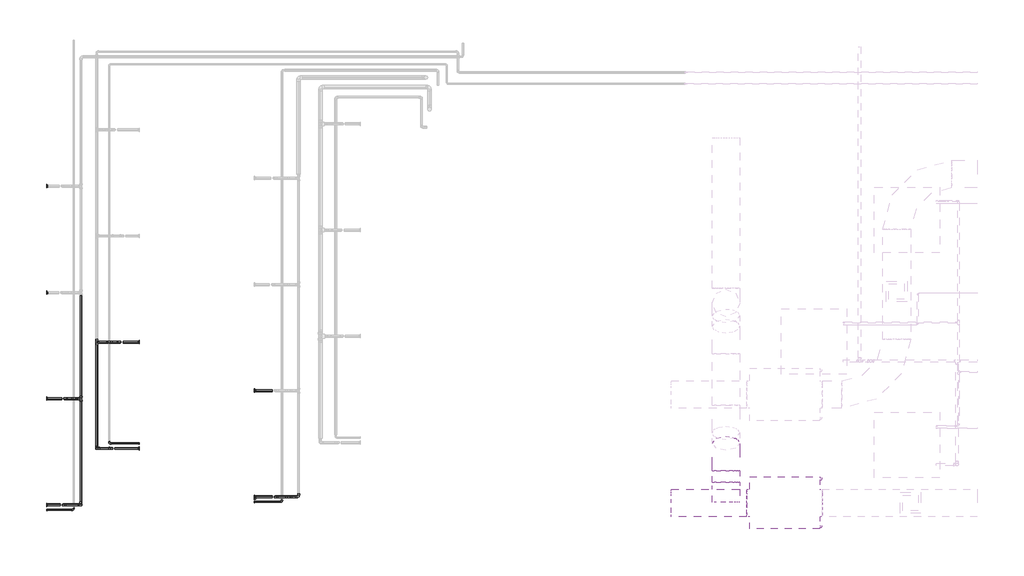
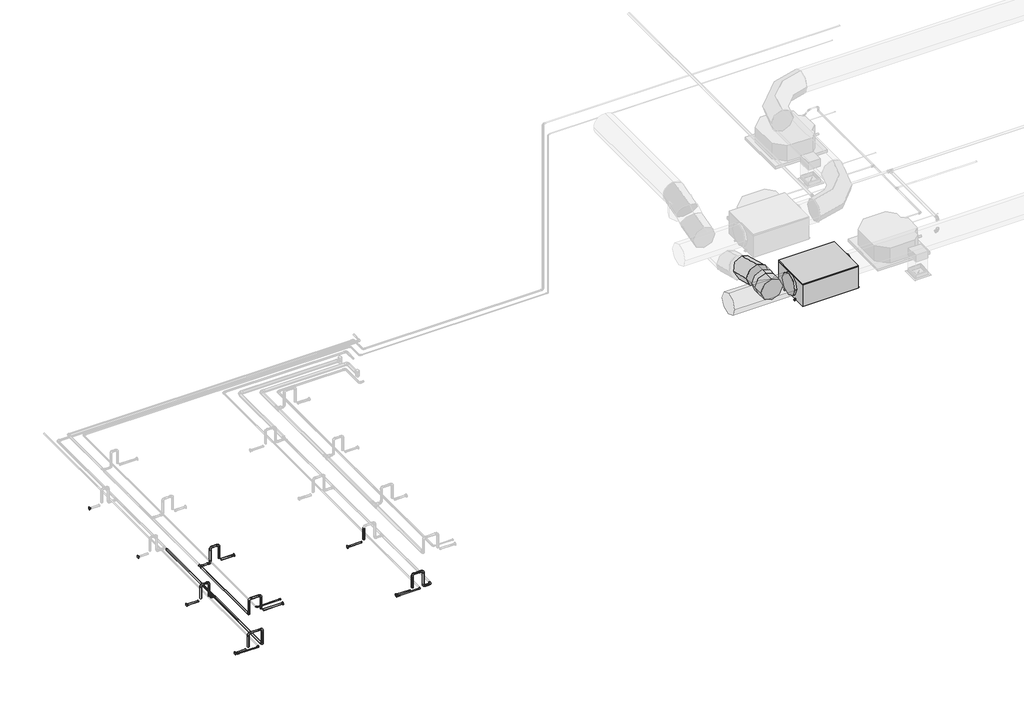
# One storey, part 1 of 22: 33 pipe fittings, 31 pipe segments, 2 duct fittings, 2 duct segments, 1 proxy.
"""IFC4 building model written with IfcOpenShell, lengths in millimetres."""

from ifc_helpers import new_model, si_unit, point, frame, frame_2d, origin, place, context, project, spatial, circle_curve, trimmed, segment, composite_curve, outline, extrude, transform, mapped, element, save
from components import fh_fh_400_6e0c7af0, duct_fitting_f399081e, duct_fitting_2_d_6dcb9c69, pipe_fitting_fefc82c8, pipe_fitting_16c020f5, pipe_fitting_3263ca60, pipe_fitting_ae0032d9, pipe_fitting_bf9d9dba

model = new_model("IFC4")

# Units and contexts
model_context = context("Model", 3, world=origin())
ifc_project = project(units=[si_unit("LENGTHUNIT", "METRE", prefix="MILLI")], contexts=[model_context])

# Site, building, storey
site = spatial("IfcSite", under=ifc_project)
building = spatial("IfcBuilding", under=site)
storey = spatial("IfcBuildingStorey", under=building, Name="Nível 2", Elevation=3880.0)

# Proxy
placement = place(None, origin())
fh_fh_400_shape = fh_fh_400_6e0c7af0(model_context)
element("IfcBuildingElementProxy", 1, Name="FH : FH 400", ObjectType="FH : FH 400", at=placement, inside=storey, context=model_context, shape_type="MappedRepresentation", body=[
    mapped(fh_fh_400_shape, transform((-1343.4687297, -8763.8997628, 7280.0), x_axis=(0.0, 1.0, 0.0), y_axis=(-1.0, 0.0, 0.0), z_axis=(0.0, 0.0, 1.0))),
])

# Duct fittings
duct_fitting_shape = duct_fitting_f399081e(model_context)
element("IfcDuctFitting", 2, ObjectType="M_Encaixe de duto redondo : Padrão", at=placement, inside=storey, context=model_context, shape_type="MappedRepresentation", body=[
    mapped(duct_fitting_shape, transform((-2195.6317244, -8563.8997628, 7501.0), x_axis=(0.0, 1.0, 0.0), y_axis=(1.0, 0.0, 0.0), z_axis=(0.0, 0.0, -1.0))),
])
duct_fitting_2_d_shape = duct_fitting_2_d_6dcb9c69(model_context)
element("IfcDuctFitting", 3, ObjectType="M_Cotovelo redondo : 2 D", at=placement, inside=storey, context=model_context, shape_type="MappedRepresentation", body=[
    mapped(duct_fitting_2_d_shape, transform((-2195.6317244, -8085.2090081, 7501.0), x_axis=(0.0, 1.0, 0.0), y_axis=(0.0, 0.0, -1.0), z_axis=(-1.0, 0.0, 0.0))),
])

# Duct segments
element("IfcDuctSegment", 4, ObjectType="Torneiras / Raio curto", at=placement, inside=storey, context=model_context, shape_type="SweptSolid", body=[
    extrude(outline(composite_curve([segment(trimmed(circle_curve(frame_2d((-8763.8997628, 7501.0)), 200.0), [point((-8563.8997628, 7501.0))], [point((-8763.8997628, 7301.0))], False, "CARTESIAN"), True, "CONTINUOUS"), segment(trimmed(circle_curve(frame_2d((-8763.8997628, 7501.0)), 200.0), [point((-8763.8997628, 7301.0))], [point((-8963.8997628, 7501.0))], False, "CARTESIAN"), True, "CONTINUOUS"), segment(trimmed(circle_curve(frame_2d((-8763.8997628, 7501.0)), 200.0), [point((-8963.8997628, 7501.0))], [point((-8763.8997628, 7701.0))], False, "CARTESIAN"), True, "CONTINUOUS"), segment(trimmed(circle_curve(frame_2d((-8763.8997628, 7501.0)), 200.0), [point((-8763.8997628, 7701.0))], [point((-8563.8997628, 7501.0))], False, "CARTESIAN"), True, "CONTINUOUS")], self_intersect=False)), frame((-2990.4687297, 0.0, 0.0), z_axis=(1.0, 0.0, 0.0), x_axis=(0.0, 1.0, 0.0)), (0.0, 0.0, 1.0), 1100.0),
])
element("IfcDuctSegment", 5, ObjectType="Torneiras / Raio curto", at=placement, inside=storey, context=model_context, shape_type="SweptSolid", body=[
    extrude(outline(composite_curve([segment(trimmed(circle_curve(frame_2d((7501.0, -2195.6317244)), 200.0), [point((7501.0, -1995.6317244))], [point((7701.0, -2195.6317244))], False, "CARTESIAN"), True, "CONTINUOUS"), segment(trimmed(circle_curve(frame_2d((7501.0, -2195.6317244)), 200.0), [point((7701.0, -2195.6317244))], [point((7501.0, -2395.6317244))], False, "CARTESIAN"), True, "CONTINUOUS"), segment(trimmed(circle_curve(frame_2d((7501.0, -2195.6317244)), 200.0), [point((7501.0, -2395.6317244))], [point((7301.0, -2195.6317244))], False, "CARTESIAN"), True, "CONTINUOUS"), segment(trimmed(circle_curve(frame_2d((7501.0, -2195.6317244)), 200.0), [point((7301.0, -2195.6317244))], [point((7501.0, -1995.6317244))], False, "CARTESIAN"), True, "CONTINUOUS")], self_intersect=False)), frame((0.0, -8462.2997628, 0.0), z_axis=(0.0, 1.0, 0.0), x_axis=(0.0, 0.0, 1.0)), (0.0, 0.0, 1.0), 162.7314067),
])

# Pipe fittings
pipe_fitting_shape = pipe_fitting_fefc82c8(model_context)
element("IfcPipeFitting", 6, ObjectType="Cotovelo - Soldado - CU : Padrão", at=placement, inside=storey, context=model_context, shape_type="MappedRepresentation", body=[
    mapped(pipe_fitting_shape, transform((-8735.5926914, -8677.4473557, 4218.9), x_axis=(0.0, 0.0, 1.0), y_axis=(1.0, 0.0, 0.0), z_axis=(0.0, 1.0, 0.0))),
])
element("IfcPipeFitting", 7, ObjectType="Cotovelo - Soldado - CU : Padrão", at=placement, inside=storey, context=model_context, shape_type="MappedRepresentation", body=[
    mapped(pipe_fitting_shape, transform((-8535.5926914, -8677.4473557, 4218.9), x_axis=(1.0, 0.0, 0.0), y_axis=(0.0, 0.0, -1.0), z_axis=(0.0, 1.0, 0.0))),
])
element("IfcPipeFitting", 8, ObjectType="Cotovelo - Soldado - CU : Padrão", at=placement, inside=storey, context=model_context, shape_type="MappedRepresentation", body=[
    mapped(pipe_fitting_shape, transform((-8535.5926914, -8677.4473557, 3918.9), x_axis=(0.0, 0.0, -1.0), y_axis=(1.0, 0.0, 0.0), z_axis=(0.0, -1.0, 0.0))),
])
element("IfcPipeFitting", 9, ObjectType="Cotovelo - Soldado - CU : Padrão", at=placement, inside=storey, context=model_context, shape_type="MappedRepresentation", body=[
    mapped(pipe_fitting_shape, transform((-8395.5926914, -8677.4473557, 3918.9), x_axis=(1.0, 0.0, 0.0), y_axis=(0.0, 1.0, 0.0), z_axis=(0.0, 0.0, 1.0))),
])
element("IfcPipeFitting", 10, ObjectType="Cotovelo - Soldado - CU : Padrão", at=placement, inside=storey, context=model_context, shape_type="MappedRepresentation", body=[
    mapped(pipe_fitting_shape, transform((-11103.5282247, -7975.3118218, 4218.9), x_axis=(0.0, 0.0, 1.0), y_axis=(-1.0, 0.0, 0.0), z_axis=(0.0, -1.0, 0.0))),
])
element("IfcPipeFitting", 11, ObjectType="Cotovelo - Soldado - CU : Padrão", at=placement, inside=storey, context=model_context, shape_type="MappedRepresentation", body=[
    mapped(pipe_fitting_shape, transform((-11323.5282247, -7975.3118218, 4218.9), x_axis=(-1.0, 0.0, 0.0), y_axis=(0.0, 0.0, -1.0), z_axis=(0.0, -1.0, 0.0))),
])
element("IfcPipeFitting", 12, ObjectType="Cotovelo - Soldado - CU : Padrão", at=placement, inside=storey, context=model_context, shape_type="MappedRepresentation", body=[
    mapped(pipe_fitting_shape, transform((-11323.5282247, -7975.3118218, 3918.9), x_axis=(0.0, 0.0, -1.0), y_axis=(0.0, 1.0, 0.0), z_axis=(1.0, 0.0, 0.0))),
])
element("IfcPipeFitting", 13, ObjectType="Cotovelo - Soldado - CU : Padrão", at=placement, inside=storey, context=model_context, shape_type="MappedRepresentation", body=[
    mapped(pipe_fitting_shape, transform((-10983.5282246, -6431.3118218, 4218.9), x_axis=(0.0, 0.0, 1.0), y_axis=(-1.0, 0.0, 0.0), z_axis=(0.0, -1.0, 0.0))),
])
element("IfcPipeFitting", 14, ObjectType="Cotovelo - Soldado - CU : Padrão", at=placement, inside=storey, context=model_context, shape_type="MappedRepresentation", body=[
    mapped(pipe_fitting_shape, transform((-11143.5282245, -6431.3118218, 4218.9), x_axis=(-1.0, 0.0, 0.0), y_axis=(0.0, 0.0, -1.0), z_axis=(0.0, -1.0, 0.0))),
])
element("IfcPipeFitting", 15, ObjectType="Cotovelo - Soldado - CU : Padrão", at=placement, inside=storey, context=model_context, shape_type="MappedRepresentation", body=[
    mapped(pipe_fitting_shape, transform((-11143.5282245, -6431.3118218, 3918.9), x_axis=(0.0, 0.0, -1.0), y_axis=(-1.0, 0.0, 0.0), z_axis=(0.0, 1.0, 0.0))),
])
element("IfcPipeFitting", 16, ObjectType="Cotovelo - Soldado - CU : Padrão", at=placement, inside=storey, context=model_context, shape_type="MappedRepresentation", body=[
    mapped(pipe_fitting_shape, transform((-11811.2126646, -8793.9118218, 4218.9), x_axis=(0.0, 0.0, 1.0), y_axis=(1.0, 0.0, 0.0), z_axis=(0.0, 1.0, 0.0))),
])
element("IfcPipeFitting", 17, ObjectType="Cotovelo - Soldado - CU : Padrão", at=placement, inside=storey, context=model_context, shape_type="MappedRepresentation", body=[
    mapped(pipe_fitting_shape, transform((-11551.2126646, -8793.9118218, 4218.9), x_axis=(1.0, 0.0, 0.0), y_axis=(0.0, 0.0, -1.0), z_axis=(0.0, 1.0, 0.0))),
])
element("IfcPipeFitting", 18, ObjectType="Cotovelo - Soldado - CU : Padrão", at=placement, inside=storey, context=model_context, shape_type="MappedRepresentation", body=[
    mapped(pipe_fitting_shape, transform((-11551.2126646, -8793.9118218, 3918.9), x_axis=(0.0, 0.0, -1.0), y_axis=(0.0, 1.0, 0.0), z_axis=(1.0, 0.0, 0.0))),
])
element("IfcPipeFitting", 19, ObjectType="Cotovelo - Soldado - CU : Padrão", at=placement, inside=storey, context=model_context, shape_type="MappedRepresentation", body=[
    mapped(pipe_fitting_shape, transform((-11791.2126648, -7252.9118218, 4218.9), x_axis=(0.0, 0.0, 1.0), y_axis=(1.0, 0.0, 0.0), z_axis=(0.0, 1.0, 0.0))),
])
element("IfcPipeFitting", 20, ObjectType="Cotovelo - Soldado - CU : Padrão", at=placement, inside=storey, context=model_context, shape_type="MappedRepresentation", body=[
    mapped(pipe_fitting_shape, transform((-11641.2126648, -7252.9118218, 4218.9), x_axis=(1.0, 0.0, 0.0), y_axis=(0.0, 0.0, -1.0), z_axis=(0.0, 1.0, 0.0))),
])
element("IfcPipeFitting", 21, ObjectType="Cotovelo - Soldado - CU : Padrão", at=placement, inside=storey, context=model_context, shape_type="MappedRepresentation", body=[
    mapped(pipe_fitting_shape, transform((-11641.2126648, -7252.9118218, 3918.9), x_axis=(0.0, 0.0, -1.0), y_axis=(1.0, 0.0, 0.0), z_axis=(0.0, -1.0, 0.0))),
])
pipe_fitting_2_shape = pipe_fitting_16c020f5(model_context)
element("IfcPipeFitting", 22, ObjectType="Cotovelo - Soldado - CU : Padrão", at=placement, inside=storey, context=model_context, shape_type="MappedRepresentation", body=[
    mapped(pipe_fitting_2_shape, transform((-8634.9926925, -8750.4473557, 3954.6), x_axis=(0.9999999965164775, 0.0, -8.34688267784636e-05), y_axis=(0.0, 1.0, 0.0), z_axis=(8.34688267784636e-05, 0.0, 0.9999999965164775))),
])
element("IfcPipeFitting", 23, ObjectType="Cotovelo - Soldado - CU : Padrão", at=placement, inside=storey, context=model_context, shape_type="MappedRepresentation", body=[
    mapped(pipe_fitting_2_shape, transform((-11143.5282239, -7902.3118218, 3954.6), x_axis=(0.0, -1.0, 0.0), y_axis=(0.9999999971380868, 0.0, 7.565597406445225e-05), z_axis=(-7.565597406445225e-05, 0.0, 0.9999999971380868))),
])
element("IfcPipeFitting", 24, ObjectType="Cotovelo - Soldado - CU : Padrão", at=placement, inside=storey, context=model_context, shape_type="MappedRepresentation", body=[
    mapped(pipe_fitting_2_shape, transform((-11658.5537659, -8866.9118218, 3954.594799), x_axis=(0.9999999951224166, 0.0, -9.876824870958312e-05), y_axis=(7.510180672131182e-11, 0.9999999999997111, 7.603841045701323e-07), z_axis=(9.876824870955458e-05, -7.603841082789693e-07, 0.9999999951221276))),
])
pipe_fitting_3_shape = pipe_fitting_3263ca60(model_context)
element("IfcPipeFitting", 25, ObjectType="Bucha de redução reta - Soldada - CU : Padrão", at=placement, inside=storey, context=model_context, shape_type="MappedRepresentation", body=[
    mapped(pipe_fitting_3_shape, transform((-9038.5282251, -8693.9118218, 3918.8823309), x_axis=(1.0, 0.0, 0.0), y_axis=(0.0, 1.0, 0.0), z_axis=(0.0, 0.0, 1.0))),
])
element("IfcPipeFitting", 26, ObjectType="Bucha de redução reta - Soldada - CU : Padrão", at=placement, inside=storey, context=model_context, shape_type="MappedRepresentation", body=[
    mapped(pipe_fitting_3_shape, transform((-9034.9926912, -8677.4473557, 3918.8823309), x_axis=(1.0, 0.0, 0.0), y_axis=(0.0, 1.0, 0.0), z_axis=(0.0, 0.0, 1.0))),
])
element("IfcPipeFitting", 27, ObjectType="Bucha de redução reta - Soldada - CU : Padrão", at=placement, inside=storey, context=model_context, shape_type="MappedRepresentation", body=[
    mapped(pipe_fitting_3_shape, transform((-9034.9926912, -7136.4473557, 3918.8823309), x_axis=(1.0, 0.0, 0.0), y_axis=(0.0, 1.0, 0.0), z_axis=(0.0, 0.0, 1.0))),
])
element("IfcPipeFitting", 28, ObjectType="Bucha de redução reta - Soldada - CU : Padrão", at=placement, inside=storey, context=model_context, shape_type="MappedRepresentation", body=[
    mapped(pipe_fitting_3_shape, transform((-10703.5282251, -7975.3118218, 3918.8823309), x_axis=(-1.0, 0.0, 0.0), y_axis=(0.0, -1.0, 0.0), z_axis=(0.0, 0.0, 1.0))),
])
element("IfcPipeFitting", 29, ObjectType="Bucha de redução reta - Soldada - CU : Padrão", at=placement, inside=storey, context=model_context, shape_type="MappedRepresentation", body=[
    mapped(pipe_fitting_3_shape, transform((-10703.5282251, -6431.3118218, 3918.8823309), x_axis=(-1.0, 0.0, 0.0), y_axis=(0.0, -1.0, 0.0), z_axis=(0.0, 0.0, 1.0))),
])
element("IfcPipeFitting", 30, ObjectType="Bucha de redução reta - Soldada - CU : Padrão", at=placement, inside=storey, context=model_context, shape_type="MappedRepresentation", body=[
    mapped(pipe_fitting_3_shape, transform((-12051.2126641, -8793.9118218, 3918.8823309), x_axis=(1.0, 0.0, 0.0), y_axis=(0.0, 1.0, 0.0), z_axis=(0.0, 0.0, 1.0))),
])
element("IfcPipeFitting", 31, ObjectType="Bucha de redução reta - Soldada - CU : Padrão", at=placement, inside=storey, context=model_context, shape_type="MappedRepresentation", body=[
    mapped(pipe_fitting_3_shape, transform((-12051.2126641, -7252.9118218, 3918.8823309), x_axis=(1.0, 0.0, 0.0), y_axis=(0.0, 1.0, 0.0), z_axis=(0.0, 0.0, 1.0))),
])
element("IfcPipeFitting", 32, ObjectType="Bucha de redução reta - Soldada - CU : Padrão", at=placement, inside=storey, context=model_context, shape_type="MappedRepresentation", body=[
    mapped(pipe_fitting_3_shape, transform((-12051.2126641, -5713.9118218, 3918.8823309), x_axis=(1.0, 0.0, 0.0), y_axis=(0.0, 1.0, 0.0), z_axis=(0.0, 0.0, 1.0))),
])
element("IfcPipeFitting", 33, ObjectType="Bucha de redução reta - Soldada - CU : Padrão", at=placement, inside=storey, context=model_context, shape_type="MappedRepresentation", body=[
    mapped(pipe_fitting_3_shape, transform((-12051.2126641, -4169.9118218, 3918.8823309), x_axis=(1.0, 0.0, 0.0), y_axis=(0.0, 1.0, 0.0), z_axis=(0.0, 0.0, 1.0))),
])
pipe_fitting_4_shape = pipe_fitting_ae0032d9(model_context)
element("IfcPipeFitting", 34, ObjectType="Tê - Soldado - CU : Padrão", at=placement, inside=storey, context=model_context, shape_type="MappedRepresentation", body=[
    mapped(pipe_fitting_4_shape, transform((-11323.5282247, -6431.3118218, 3918.9), x_axis=(0.0, -1.0, 0.0), y_axis=(-1.0, 0.0, 0.0), z_axis=(0.0, 0.0, -1.0))),
])
element("IfcPipeFitting", 35, ObjectType="Tê - Soldado - CU : Padrão", at=placement, inside=storey, context=model_context, shape_type="MappedRepresentation", body=[
    mapped(pipe_fitting_4_shape, transform((-11551.2126646, -7252.9118218, 3918.9), x_axis=(0.0, -1.0, 0.0), y_axis=(1.0, 0.0, 0.0), z_axis=(0.0, 0.0, 1.0))),
])
pipe_fitting_5_shape = pipe_fitting_bf9d9dba(model_context)
element("IfcPipeFitting", 36, ObjectType="Bucha de redução reta - Soldada - CU : Padrão", at=placement, inside=storey, context=model_context, shape_type="MappedRepresentation", body=[
    mapped(pipe_fitting_5_shape, transform((-9034.9926912, -8750.4473557, 3954.6323309), x_axis=(1.0, 0.0, 0.0), y_axis=(0.0, 1.0, 0.0), z_axis=(0.0, 0.0, 1.0))),
])
element("IfcPipeFitting", 37, ObjectType="Bucha de redução reta - Soldada - CU : Padrão", at=placement, inside=storey, context=model_context, shape_type="MappedRepresentation", body=[
    mapped(pipe_fitting_5_shape, transform((-10703.5282251, -7902.3118218, 3954.6323309), x_axis=(-1.0, 0.0, 0.0), y_axis=(0.0, -1.0, 0.0), z_axis=(0.0, 0.0, 1.0))),
])
element("IfcPipeFitting", 38, ObjectType="Bucha de redução reta - Soldada - CU : Padrão", at=placement, inside=storey, context=model_context, shape_type="MappedRepresentation", body=[
    mapped(pipe_fitting_5_shape, transform((-12051.2126641, -8866.9118218, 3954.6323309), x_axis=(1.0, 0.0, 0.0), y_axis=(0.0, 1.0, 0.0), z_axis=(0.0, 0.0, 1.0))),
])

# Pipe segments
element("IfcPipeSegment", 39, ObjectType="Tubos de cobre HVAC", at=placement, inside=storey, context=model_context, shape_type="SweptSolid", body=[
    extrude(outline(composite_curve([segment(trimmed(circle_curve(frame_2d((0.0, 14.0)), 14.0), [point((-14.0, 14.0))], [point((0.0, 28.0))], False, "CARTESIAN"), True, "CONTINUOUS"), segment(trimmed(circle_curve(frame_2d((0.0, 14.0)), 14.0), [point((0.0, 28.0))], [point((14.0, 14.0))], False, "CARTESIAN"), True, "CONTINUOUS"), segment(trimmed(circle_curve(frame_2d((0.0, 14.0)), 14.0), [point((14.0, 14.0))], [point((0.0, 0.0))], False, "CARTESIAN"), True, "CONTINUOUS"), segment(trimmed(circle_curve(frame_2d((0.0, 14.0)), 14.0), [point((0.0, 0.0))], [point((-14.0, 14.0))], False, "CARTESIAN"), True, "CONTINUOUS")], self_intersect=False)), frame((-9015.5921765, -8677.4473557, 3904.8823309), z_axis=(0.9999999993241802, 0.0, 3.6764654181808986e-05), x_axis=(0.0, 1.0, 0.0)), (0.0, 0.0, 1.0), 237.8),
])
element("IfcPipeSegment", 40, ObjectType="Tubos de cobre HVAC", at=placement, inside=storey, context=model_context, shape_type="SweptSolid", body=[
    extrude(outline(composite_curve([segment(trimmed(circle_curve(frame_2d((-8735.5926914, -8677.4473557)), 14.0), [point((-8749.5926914, -8677.4473557))], [point((-8735.5926914, -8663.4473557))], False, "CARTESIAN"), True, "CONTINUOUS"), segment(trimmed(circle_curve(frame_2d((-8735.5926914, -8677.4473557)), 14.0), [point((-8735.5926914, -8663.4473557))], [point((-8721.5926914, -8677.4473557))], False, "CARTESIAN"), True, "CONTINUOUS"), segment(trimmed(circle_curve(frame_2d((-8735.5926914, -8677.4473557)), 14.0), [point((-8721.5926914, -8677.4473557))], [point((-8735.5926914, -8691.4473557))], False, "CARTESIAN"), True, "CONTINUOUS"), segment(trimmed(circle_curve(frame_2d((-8735.5926914, -8677.4473557)), 14.0), [point((-8735.5926914, -8691.4473557))], [point((-8749.5926914, -8677.4473557))], False, "CARTESIAN"), True, "CONTINUOUS")], self_intersect=False)), frame((0.0, 0.0, 3961.092625), z_axis=(0.0, 0.0, 1.0), x_axis=(1.0, 0.0, 0.0)), (0.0, 0.0, 1.0), 215.607375),
])
element("IfcPipeSegment", 41, ObjectType="Tubos de cobre HVAC", at=placement, inside=storey, context=model_context, shape_type="SweptSolid", body=[
    extrude(outline(composite_curve([segment(trimmed(circle_curve(frame_2d((-8677.4473557, 4218.9)), 14.0), [point((-8691.4473557, 4218.9))], [point((-8677.4473557, 4232.9))], False, "CARTESIAN"), True, "CONTINUOUS"), segment(trimmed(circle_curve(frame_2d((-8677.4473557, 4218.9)), 14.0), [point((-8677.4473557, 4232.9))], [point((-8663.4473557, 4218.9))], False, "CARTESIAN"), True, "CONTINUOUS"), segment(trimmed(circle_curve(frame_2d((-8677.4473557, 4218.9)), 14.0), [point((-8663.4473557, 4218.9))], [point((-8677.4473557, 4204.9))], False, "CARTESIAN"), True, "CONTINUOUS"), segment(trimmed(circle_curve(frame_2d((-8677.4473557, 4218.9)), 14.0), [point((-8677.4473557, 4204.9))], [point((-8691.4473557, 4218.9))], False, "CARTESIAN"), True, "CONTINUOUS")], self_intersect=False)), frame((-8693.3926914, 0.0, 0.0), z_axis=(1.0, 0.0, 0.0), x_axis=(0.0, 1.0, 0.0)), (0.0, 0.0, 1.0), 115.6),
])
element("IfcPipeSegment", 42, ObjectType="Tubos de cobre HVAC", at=placement, inside=storey, context=model_context, shape_type="SweptSolid", body=[
    extrude(outline(composite_curve([segment(trimmed(circle_curve(frame_2d((-8677.4473557, 3918.9)), 14.0), [point((-8691.4473557, 3918.9))], [point((-8677.4473557, 3932.9))], False, "CARTESIAN"), True, "CONTINUOUS"), segment(trimmed(circle_curve(frame_2d((-8677.4473557, 3918.9)), 14.0), [point((-8677.4473557, 3932.9))], [point((-8663.4473557, 3918.9))], False, "CARTESIAN"), True, "CONTINUOUS"), segment(trimmed(circle_curve(frame_2d((-8677.4473557, 3918.9)), 14.0), [point((-8663.4473557, 3918.9))], [point((-8677.4473557, 3904.9))], False, "CARTESIAN"), True, "CONTINUOUS"), segment(trimmed(circle_curve(frame_2d((-8677.4473557, 3918.9)), 14.0), [point((-8677.4473557, 3904.9))], [point((-8691.4473557, 3918.9))], False, "CARTESIAN"), True, "CONTINUOUS")], self_intersect=False)), frame((-8493.3926914, 0.0, 0.0), z_axis=(1.0, 0.0, 0.0), x_axis=(0.0, 1.0, 0.0)), (0.0, 0.0, 1.0), 55.6),
])
element("IfcPipeSegment", 43, ObjectType="Tubos de cobre HVAC", at=placement, inside=storey, context=model_context, shape_type="SweptSolid", body=[
    extrude(outline(composite_curve([segment(trimmed(circle_curve(frame_2d((-8535.5926914, -8677.4473557)), 14.0), [point((-8521.5926914, -8677.4473557))], [point((-8535.5926914, -8691.4473557))], False, "CARTESIAN"), True, "CONTINUOUS"), segment(trimmed(circle_curve(frame_2d((-8535.5926914, -8677.4473557)), 14.0), [point((-8535.5926914, -8691.4473557))], [point((-8549.5926914, -8677.4473557))], False, "CARTESIAN"), True, "CONTINUOUS"), segment(trimmed(circle_curve(frame_2d((-8535.5926914, -8677.4473557)), 14.0), [point((-8549.5926914, -8677.4473557))], [point((-8535.5926914, -8663.4473557))], False, "CARTESIAN"), True, "CONTINUOUS"), segment(trimmed(circle_curve(frame_2d((-8535.5926914, -8677.4473557)), 14.0), [point((-8535.5926914, -8663.4473557))], [point((-8521.5926914, -8677.4473557))], False, "CARTESIAN"), True, "CONTINUOUS")], self_intersect=False)), frame((0.0, 0.0, 3961.1), z_axis=(0.0, 0.0, 1.0), x_axis=(1.0, 0.0, 0.0)), (0.0, 0.0, 1.0), 215.6),
])
element("IfcPipeSegment", 44, ObjectType="Tubos de cobre HVAC", at=placement, inside=storey, context=model_context, shape_type="SweptSolid", body=[
    extrude(outline(composite_curve([segment(trimmed(circle_curve(frame_2d((0.0, 14.0)), 14.0), [point((-14.0, 14.0))], [point((0.0, 28.0000001))], False, "CARTESIAN"), True, "CONTINUOUS"), segment(trimmed(circle_curve(frame_2d((0.0, 14.0)), 14.0), [point((0.0, 28.0000001))], [point((14.0, 14.0))], False, "CARTESIAN"), True, "CONTINUOUS"), segment(trimmed(circle_curve(frame_2d((0.0, 14.0)), 14.0), [point((14.0, 14.0))], [point((0.0, 0.0))], False, "CARTESIAN"), True, "CONTINUOUS"), segment(trimmed(circle_curve(frame_2d((0.0, 14.0)), 14.0), [point((0.0, 0.0))], [point((-14.0, 14.0))], False, "CARTESIAN"), True, "CONTINUOUS")], self_intersect=False)), frame((-9015.5918096, -7136.4473557, 3904.8823309), z_axis=(0.9999999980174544, 0.0, 6.296896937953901e-05), x_axis=(0.0, 1.0, 0.0)), (0.0, 0.0, 1.0), 238.4),
])
element("IfcPipeSegment", 45, ObjectType="Tubos de cobre HVAC", at=placement, inside=storey, context=model_context, shape_type="SweptSolid", body=[
    extrude(outline(composite_curve([segment(trimmed(circle_curve(frame_2d((-8734.9926917, -7136.4473557)), 14.0), [point((-8720.9926917, -7136.4473557))], [point((-8734.9926917, -7150.4473557))], False, "CARTESIAN"), True, "CONTINUOUS"), segment(trimmed(circle_curve(frame_2d((-8734.9926917, -7136.4473557)), 14.0), [point((-8734.9926917, -7150.4473557))], [point((-8748.9926917, -7136.4473557))], False, "CARTESIAN"), True, "CONTINUOUS"), segment(trimmed(circle_curve(frame_2d((-8734.9926917, -7136.4473557)), 14.0), [point((-8748.9926917, -7136.4473557))], [point((-8734.9926917, -7122.4473557))], False, "CARTESIAN"), True, "CONTINUOUS"), segment(trimmed(circle_curve(frame_2d((-8734.9926917, -7136.4473557)), 14.0), [point((-8734.9926917, -7122.4473557))], [point((-8720.9926917, -7136.4473557))], False, "CARTESIAN"), True, "CONTINUOUS")], self_intersect=False)), frame((0.0, 0.0, 3961.1000001), z_axis=(0.0, 0.0, 1.0), x_axis=(1.0, 0.0, 0.0)), (0.0, 0.0, 1.0), 215.5999999),
])
element("IfcPipeSegment", 46, ObjectType="Tubos de cobre HVAC", at=placement, inside=storey, context=model_context, shape_type="SweptSolid", body=[
    extrude(outline(composite_curve([segment(trimmed(circle_curve(frame_2d((0.0, -7.935)), 7.935), [point((-7.935, -7.935))], [point((0.0, 0.0))], False, "CARTESIAN"), True, "CONTINUOUS"), segment(trimmed(circle_curve(frame_2d((0.0, -7.935)), 7.935), [point((0.0, 0.0))], [point((7.935, -7.935))], False, "CARTESIAN"), True, "CONTINUOUS"), segment(trimmed(circle_curve(frame_2d((0.0, -7.935)), 7.935), [point((7.935, -7.935))], [point((0.0, -15.8700001))], False, "CARTESIAN"), True, "CONTINUOUS"), segment(trimmed(circle_curve(frame_2d((0.0, -7.935)), 7.935), [point((0.0, -15.8700001))], [point((-7.935, -7.935))], False, "CARTESIAN"), True, "CONTINUOUS")], self_intersect=False)), frame((-8663.9719547, -8750.4473557, 3946.6674188), z_axis=(-0.9999999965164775, 0.0, 8.346882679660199e-05), x_axis=(0.0, 1.0, 0.0)), (0.0, 0.0, 1.0), 358.3625),
])
element("IfcPipeSegment", 47, ObjectType="Tubos de cobre HVAC", at=placement, inside=storey, context=model_context, shape_type="SweptSolid", body=[
    extrude(outline(composite_curve([segment(trimmed(circle_curve(frame_2d((0.0, 14.0)), 14.0), [point((-14.0, 14.0))], [point((0.0, 28.0))], False, "CARTESIAN"), True, "CONTINUOUS"), segment(trimmed(circle_curve(frame_2d((0.0, 14.0)), 14.0), [point((0.0, 28.0))], [point((14.0, 14.0))], False, "CARTESIAN"), True, "CONTINUOUS"), segment(trimmed(circle_curve(frame_2d((0.0, 14.0)), 14.0), [point((14.0, 14.0))], [point((0.0, 0.0))], False, "CARTESIAN"), True, "CONTINUOUS"), segment(trimmed(circle_curve(frame_2d((0.0, 14.0)), 14.0), [point((0.0, 0.0))], [point((-14.0, 14.0))], False, "CARTESIAN"), True, "CONTINUOUS")], self_intersect=False)), frame((-10722.928875, -7975.3118218, 3904.8823309), z_axis=(-0.9999999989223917, 0.0, 4.642431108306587e-05), x_axis=(0.0, -1.0, 0.0)), (0.0, 0.0, 1.0), 338.4),
])
element("IfcPipeSegment", 48, ObjectType="Tubos de cobre HVAC", at=placement, inside=storey, context=model_context, shape_type="SweptSolid", body=[
    extrude(outline(composite_curve([segment(trimmed(circle_curve(frame_2d((-11103.5282247, -7975.3118218)), 14.0), [point((-11089.5282247, -7975.3118218))], [point((-11103.5282247, -7989.3118218))], False, "CARTESIAN"), True, "CONTINUOUS"), segment(trimmed(circle_curve(frame_2d((-11103.5282247, -7975.3118218)), 14.0), [point((-11103.5282247, -7989.3118218))], [point((-11117.5282247, -7975.3118218))], False, "CARTESIAN"), True, "CONTINUOUS"), segment(trimmed(circle_curve(frame_2d((-11103.5282247, -7975.3118218)), 14.0), [point((-11117.5282247, -7975.3118218))], [point((-11103.5282247, -7961.3118218))], False, "CARTESIAN"), True, "CONTINUOUS"), segment(trimmed(circle_curve(frame_2d((-11103.5282247, -7975.3118218)), 14.0), [point((-11103.5282247, -7961.3118218))], [point((-11089.5282247, -7975.3118218))], False, "CARTESIAN"), True, "CONTINUOUS")], self_intersect=False)), frame((0.0, 0.0, 3961.1), z_axis=(0.0, 0.0, 1.0), x_axis=(1.0, 0.0, 0.0)), (0.0, 0.0, 1.0), 215.6),
])
element("IfcPipeSegment", 49, ObjectType="Tubos de cobre HVAC", at=placement, inside=storey, context=model_context, shape_type="SweptSolid", body=[
    extrude(outline(composite_curve([segment(trimmed(circle_curve(frame_2d((-7975.3118218, 4218.9)), 14.0), [point((-7961.3118218, 4218.9))], [point((-7975.3118218, 4204.9))], False, "CARTESIAN"), True, "CONTINUOUS"), segment(trimmed(circle_curve(frame_2d((-7975.3118218, 4218.9)), 14.0), [point((-7975.3118218, 4204.9))], [point((-7989.3118218, 4218.9))], False, "CARTESIAN"), True, "CONTINUOUS"), segment(trimmed(circle_curve(frame_2d((-7975.3118218, 4218.9)), 14.0), [point((-7989.3118218, 4218.9))], [point((-7975.3118218, 4232.9))], False, "CARTESIAN"), True, "CONTINUOUS"), segment(trimmed(circle_curve(frame_2d((-7975.3118218, 4218.9)), 14.0), [point((-7975.3118218, 4232.9))], [point((-7961.3118218, 4218.9))], False, "CARTESIAN"), True, "CONTINUOUS")], self_intersect=False)), frame((-11281.3282247, 0.0, 0.0), z_axis=(1.0, 0.0, 0.0), x_axis=(0.0, 1.0, 0.0)), (0.0, 0.0, 1.0), 135.6),
])
element("IfcPipeSegment", 50, ObjectType="Tubos de cobre HVAC", at=placement, inside=storey, context=model_context, shape_type="SweptSolid", body=[
    extrude(outline(composite_curve([segment(trimmed(circle_curve(frame_2d((-11323.5282247, -7975.3118218)), 14.0), [point((-11337.5282247, -7975.3118218))], [point((-11323.5282247, -7961.3118218))], False, "CARTESIAN"), True, "CONTINUOUS"), segment(trimmed(circle_curve(frame_2d((-11323.5282247, -7975.3118218)), 14.0), [point((-11323.5282247, -7961.3118218))], [point((-11309.5282247, -7975.3118218))], False, "CARTESIAN"), True, "CONTINUOUS"), segment(trimmed(circle_curve(frame_2d((-11323.5282247, -7975.3118218)), 14.0), [point((-11309.5282247, -7975.3118218))], [point((-11323.5282247, -7989.3118218))], False, "CARTESIAN"), True, "CONTINUOUS"), segment(trimmed(circle_curve(frame_2d((-11323.5282247, -7975.3118218)), 14.0), [point((-11323.5282247, -7989.3118218))], [point((-11337.5282247, -7975.3118218))], False, "CARTESIAN"), True, "CONTINUOUS")], self_intersect=False)), frame((0.0, 0.0, 3961.1), z_axis=(0.0, 0.0, 1.0), x_axis=(1.0, 0.0, 0.0)), (0.0, 0.0, 1.0), 215.6),
])
element("IfcPipeSegment", 51, ObjectType="Tubos de cobre HVAC", at=placement, inside=storey, context=model_context, shape_type="SweptSolid", body=[
    extrude(outline(composite_curve([segment(trimmed(circle_curve(frame_2d((0.0, 14.0)), 14.0), [point((-14.0, 14.0))], [point((0.0, 28.0000001))], False, "CARTESIAN"), True, "CONTINUOUS"), segment(trimmed(circle_curve(frame_2d((0.0, 14.0)), 14.0), [point((0.0, 28.0000001))], [point((14.0, 14.0))], False, "CARTESIAN"), True, "CONTINUOUS"), segment(trimmed(circle_curve(frame_2d((0.0, 14.0)), 14.0), [point((14.0, 14.0))], [point((0.0, 0.0))], False, "CARTESIAN"), True, "CONTINUOUS"), segment(trimmed(circle_curve(frame_2d((0.0, 14.0)), 14.0), [point((0.0, 0.0))], [point((-14.0, 14.0))], False, "CARTESIAN"), True, "CONTINUOUS")], self_intersect=False)), frame((-10722.9291743, -6431.3118218, 3904.8823309), z_axis=(-0.9999999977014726, 0.0, 6.780158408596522e-05), x_axis=(0.0, -1.0, 0.0)), (0.0, 0.0, 1.0), 218.4),
])
element("IfcPipeSegment", 52, ObjectType="Tubos de cobre HVAC", at=placement, inside=storey, context=model_context, shape_type="SweptSolid", body=[
    extrude(outline(composite_curve([segment(trimmed(circle_curve(frame_2d((-10983.5282245, -6431.3118218)), 14.0), [point((-10969.5282245, -6431.3118218))], [point((-10983.5282245, -6445.3118218))], False, "CARTESIAN"), True, "CONTINUOUS"), segment(trimmed(circle_curve(frame_2d((-10983.5282245, -6431.3118218)), 14.0), [point((-10983.5282245, -6445.3118218))], [point((-10997.5282245, -6431.3118218))], False, "CARTESIAN"), True, "CONTINUOUS"), segment(trimmed(circle_curve(frame_2d((-10983.5282245, -6431.3118218)), 14.0), [point((-10997.5282245, -6431.3118218))], [point((-10983.5282245, -6417.3118218))], False, "CARTESIAN"), True, "CONTINUOUS"), segment(trimmed(circle_curve(frame_2d((-10983.5282245, -6431.3118218)), 14.0), [point((-10983.5282245, -6417.3118218))], [point((-10969.5282245, -6431.3118218))], False, "CARTESIAN"), True, "CONTINUOUS")], self_intersect=False)), frame((0.0, 0.0, 3961.1000001), z_axis=(0.0, 0.0, 1.0), x_axis=(1.0, 0.0, 0.0)), (0.0, 0.0, 1.0), 215.5999999),
])
element("IfcPipeSegment", 53, ObjectType="Tubos de cobre HVAC", at=placement, inside=storey, context=model_context, shape_type="SweptSolid", body=[
    extrude(outline(composite_curve([segment(trimmed(circle_curve(frame_2d((-6431.3118218, 4218.9)), 14.0), [point((-6417.3118218, 4218.9))], [point((-6431.3118218, 4204.9))], False, "CARTESIAN"), True, "CONTINUOUS"), segment(trimmed(circle_curve(frame_2d((-6431.3118218, 4218.9)), 14.0), [point((-6431.3118218, 4204.9))], [point((-6445.3118218, 4218.9))], False, "CARTESIAN"), True, "CONTINUOUS"), segment(trimmed(circle_curve(frame_2d((-6431.3118218, 4218.9)), 14.0), [point((-6445.3118218, 4218.9))], [point((-6431.3118218, 4232.9))], False, "CARTESIAN"), True, "CONTINUOUS"), segment(trimmed(circle_curve(frame_2d((-6431.3118218, 4218.9)), 14.0), [point((-6431.3118218, 4232.9))], [point((-6417.3118218, 4218.9))], False, "CARTESIAN"), True, "CONTINUOUS")], self_intersect=False)), frame((-11101.3282245, 0.0, 0.0), z_axis=(1.0, 0.0, 0.0), x_axis=(0.0, 1.0, 0.0)), (0.0, 0.0, 1.0), 75.6),
])
element("IfcPipeSegment", 54, ObjectType="Tubos de cobre HVAC", at=placement, inside=storey, context=model_context, shape_type="SweptSolid", body=[
    extrude(outline(composite_curve([segment(trimmed(circle_curve(frame_2d((-11143.5282245, -6431.3118218)), 14.0), [point((-11157.5282245, -6431.3118218))], [point((-11143.5282245, -6417.3118218))], False, "CARTESIAN"), True, "CONTINUOUS"), segment(trimmed(circle_curve(frame_2d((-11143.5282245, -6431.3118218)), 14.0), [point((-11143.5282245, -6417.3118218))], [point((-11129.5282245, -6431.3118218))], False, "CARTESIAN"), True, "CONTINUOUS"), segment(trimmed(circle_curve(frame_2d((-11143.5282245, -6431.3118218)), 14.0), [point((-11129.5282245, -6431.3118218))], [point((-11143.5282245, -6445.3118218))], False, "CARTESIAN"), True, "CONTINUOUS"), segment(trimmed(circle_curve(frame_2d((-11143.5282245, -6431.3118218)), 14.0), [point((-11143.5282245, -6445.3118218))], [point((-11157.5282245, -6431.3118218))], False, "CARTESIAN"), True, "CONTINUOUS")], self_intersect=False)), frame((0.0, 0.0, 3961.1), z_axis=(0.0, 0.0, 1.0), x_axis=(1.0, 0.0, 0.0)), (0.0, 0.0, 1.0), 215.6),
])
element("IfcPipeSegment", 55, ObjectType="Tubos de cobre HVAC", at=placement, inside=storey, context=model_context, shape_type="SweptSolid", body=[
    extrude(outline(composite_curve([segment(trimmed(circle_curve(frame_2d((-6431.3118218, 3918.9)), 14.0), [point((-6445.3118218, 3918.9))], [point((-6431.3118218, 3932.9))], False, "CARTESIAN"), True, "CONTINUOUS"), segment(trimmed(circle_curve(frame_2d((-6431.3118218, 3918.9)), 14.0), [point((-6431.3118218, 3932.9))], [point((-6417.3118218, 3918.9))], False, "CARTESIAN"), True, "CONTINUOUS"), segment(trimmed(circle_curve(frame_2d((-6431.3118218, 3918.9)), 14.0), [point((-6417.3118218, 3918.9))], [point((-6431.3118218, 3904.9))], False, "CARTESIAN"), True, "CONTINUOUS"), segment(trimmed(circle_curve(frame_2d((-6431.3118218, 3918.9)), 14.0), [point((-6431.3118218, 3904.9))], [point((-6445.3118218, 3918.9))], False, "CARTESIAN"), True, "CONTINUOUS")], self_intersect=False)), frame((-11285.0282247, 0.0, 0.0), z_axis=(1.0, 0.0, 0.0), x_axis=(0.0, 1.0, 0.0)), (0.0, 0.0, 1.0), 99.3000002),
])
element("IfcPipeSegment", 56, ObjectType="Tubos de cobre HVAC", at=placement, inside=storey, context=model_context, shape_type="SweptSolid", body=[
    extrude(outline(composite_curve([segment(trimmed(circle_curve(frame_2d((3918.9, -11323.5282247)), 14.0), [point((3918.9, -11309.5282247))], [point((3932.9, -11323.5282247))], False, "CARTESIAN"), True, "CONTINUOUS"), segment(trimmed(circle_curve(frame_2d((3918.9, -11323.5282247)), 14.0), [point((3932.9, -11323.5282247))], [point((3918.9, -11337.5282247))], False, "CARTESIAN"), True, "CONTINUOUS"), segment(trimmed(circle_curve(frame_2d((3918.9, -11323.5282247)), 14.0), [point((3918.9, -11337.5282247))], [point((3904.9, -11323.5282247))], False, "CARTESIAN"), True, "CONTINUOUS"), segment(trimmed(circle_curve(frame_2d((3918.9, -11323.5282247)), 14.0), [point((3904.9, -11323.5282247))], [point((3918.9, -11309.5282247))], False, "CARTESIAN"), True, "CONTINUOUS")], self_intersect=False)), frame((0.0, -7933.1118218, 0.0), z_axis=(0.0, 1.0, 0.0), x_axis=(0.0, 0.0, 1.0)), (0.0, 0.0, 1.0), 1463.8),
])
element("IfcPipeSegment", 57, ObjectType="Tubos de cobre HVAC", at=placement, inside=storey, context=model_context, shape_type="SweptSolid", body=[
    extrude(outline(composite_curve([segment(trimmed(circle_curve(frame_2d((0.0, -7.935)), 7.935), [point((-7.935, -7.935))], [point((0.0, 0.0))], False, "CARTESIAN"), True, "CONTINUOUS"), segment(trimmed(circle_curve(frame_2d((0.0, -7.935)), 7.935), [point((0.0, 0.0))], [point((7.935, -7.935))], False, "CARTESIAN"), True, "CONTINUOUS"), segment(trimmed(circle_curve(frame_2d((0.0, -7.935)), 7.935), [point((7.935, -7.935))], [point((0.0, -15.87))], False, "CARTESIAN"), True, "CONTINUOUS"), segment(trimmed(circle_curve(frame_2d((0.0, -7.935)), 7.935), [point((0.0, -15.87))], [point((-7.935, -7.935))], False, "CARTESIAN"), True, "CONTINUOUS")], self_intersect=False)), frame((-11114.5490237, -7902.3118218, 3946.6671924), z_axis=(0.9999999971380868, 0.0, 7.565597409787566e-05), x_axis=(0.0, -1.0, 0.0)), (0.0, 0.0, 1.0), 398.3625),
])
element("IfcPipeSegment", 58, ObjectType="Tubos de cobre HVAC", at=placement, inside=storey, context=model_context, shape_type="SweptSolid", body=[
    extrude(outline(composite_curve([segment(trimmed(circle_curve(frame_2d((0.0, 13.9999999)), 14.0), [point((-14.0, 13.9999999))], [point((0.0, 28.0))], False, "CARTESIAN"), True, "CONTINUOUS"), segment(trimmed(circle_curve(frame_2d((0.0, 13.9999999)), 14.0), [point((0.0, 28.0))], [point((14.0, 13.9999999))], False, "CARTESIAN"), True, "CONTINUOUS"), segment(trimmed(circle_curve(frame_2d((0.0, 13.9999999)), 14.0), [point((14.0, 13.9999999))], [point((0.0, 0.0))], False, "CARTESIAN"), True, "CONTINUOUS"), segment(trimmed(circle_curve(frame_2d((0.0, 13.9999999)), 14.0), [point((0.0, 0.0))], [point((-14.0, 13.9999999))], False, "CARTESIAN"), True, "CONTINUOUS")], self_intersect=False)), frame((-12031.811486, -8793.9118218, 3904.882331), z_axis=(0.9999999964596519, 0.0, 8.414687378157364e-05), x_axis=(0.0, 1.0, 0.0)), (0.0, 0.0, 1.0), 178.4000002),
])
element("IfcPipeSegment", 59, ObjectType="Tubos de cobre HVAC", at=placement, inside=storey, context=model_context, shape_type="SweptSolid", body=[
    extrude(outline(composite_curve([segment(trimmed(circle_curve(frame_2d((-11811.2126646, -8793.9118218)), 14.0), [point((-11797.2126646, -8793.9118218))], [point((-11811.2126646, -8807.9118218))], False, "CARTESIAN"), True, "CONTINUOUS"), segment(trimmed(circle_curve(frame_2d((-11811.2126646, -8793.9118218)), 14.0), [point((-11811.2126646, -8807.9118218))], [point((-11825.2126646, -8793.9118218))], False, "CARTESIAN"), True, "CONTINUOUS"), segment(trimmed(circle_curve(frame_2d((-11811.2126646, -8793.9118218)), 14.0), [point((-11825.2126646, -8793.9118218))], [point((-11811.2126646, -8779.9118218))], False, "CARTESIAN"), True, "CONTINUOUS"), segment(trimmed(circle_curve(frame_2d((-11811.2126646, -8793.9118218)), 14.0), [point((-11811.2126646, -8779.9118218))], [point((-11797.2126646, -8793.9118218))], False, "CARTESIAN"), True, "CONTINUOUS")], self_intersect=False)), frame((0.0, 0.0, 3961.1000001), z_axis=(0.0, 0.0, 1.0), x_axis=(1.0, 0.0, 0.0)), (0.0, 0.0, 1.0), 215.5999999),
])
element("IfcPipeSegment", 60, ObjectType="Tubos de cobre HVAC", at=placement, inside=storey, context=model_context, shape_type="SweptSolid", body=[
    extrude(outline(composite_curve([segment(trimmed(circle_curve(frame_2d((-8793.9118218, 4218.9)), 14.0), [point((-8807.9118218, 4218.9))], [point((-8793.9118218, 4232.9))], False, "CARTESIAN"), True, "CONTINUOUS"), segment(trimmed(circle_curve(frame_2d((-8793.9118218, 4218.9)), 14.0), [point((-8793.9118218, 4232.9))], [point((-8779.9118218, 4218.9))], False, "CARTESIAN"), True, "CONTINUOUS"), segment(trimmed(circle_curve(frame_2d((-8793.9118218, 4218.9)), 14.0), [point((-8779.9118218, 4218.9))], [point((-8793.9118218, 4204.9))], False, "CARTESIAN"), True, "CONTINUOUS"), segment(trimmed(circle_curve(frame_2d((-8793.9118218, 4218.9)), 14.0), [point((-8793.9118218, 4204.9))], [point((-8807.9118218, 4218.9))], False, "CARTESIAN"), True, "CONTINUOUS")], self_intersect=False)), frame((-11769.0126646, 0.0, 0.0), z_axis=(1.0, 0.0, 0.0), x_axis=(0.0, 1.0, 0.0)), (0.0, 0.0, 1.0), 175.6),
])
element("IfcPipeSegment", 61, ObjectType="Tubos de cobre HVAC", at=placement, inside=storey, context=model_context, shape_type="SweptSolid", body=[
    extrude(outline(composite_curve([segment(trimmed(circle_curve(frame_2d((-11551.2126646, -8793.9118218)), 14.0), [point((-11565.2126646, -8793.9118218))], [point((-11551.2126646, -8779.9118218))], False, "CARTESIAN"), True, "CONTINUOUS"), segment(trimmed(circle_curve(frame_2d((-11551.2126646, -8793.9118218)), 14.0), [point((-11551.2126646, -8779.9118218))], [point((-11537.2126646, -8793.9118218))], False, "CARTESIAN"), True, "CONTINUOUS"), segment(trimmed(circle_curve(frame_2d((-11551.2126646, -8793.9118218)), 14.0), [point((-11537.2126646, -8793.9118218))], [point((-11551.2126646, -8807.9118218))], False, "CARTESIAN"), True, "CONTINUOUS"), segment(trimmed(circle_curve(frame_2d((-11551.2126646, -8793.9118218)), 14.0), [point((-11551.2126646, -8807.9118218))], [point((-11565.2126646, -8793.9118218))], False, "CARTESIAN"), True, "CONTINUOUS")], self_intersect=False)), frame((0.0, 0.0, 3961.1), z_axis=(0.0, 0.0, 1.0), x_axis=(1.0, 0.0, 0.0)), (0.0, 0.0, 1.0), 215.6),
])
element("IfcPipeSegment", 62, ObjectType="Tubos de cobre HVAC", at=placement, inside=storey, context=model_context, shape_type="SweptSolid", body=[
    extrude(outline(composite_curve([segment(trimmed(circle_curve(frame_2d((0.0, 14.0)), 14.0), [point((-14.0, 14.0))], [point((0.0, 28.0000001))], False, "CARTESIAN"), True, "CONTINUOUS"), segment(trimmed(circle_curve(frame_2d((0.0, 14.0)), 14.0), [point((0.0, 28.0000001))], [point((14.0, 14.0))], False, "CARTESIAN"), True, "CONTINUOUS"), segment(trimmed(circle_curve(frame_2d((0.0, 14.0)), 14.0), [point((14.0, 14.0))], [point((0.0, 0.0))], False, "CARTESIAN"), True, "CONTINUOUS"), segment(trimmed(circle_curve(frame_2d((0.0, 14.0)), 14.0), [point((0.0, 0.0))], [point((-14.0, 14.0))], False, "CARTESIAN"), True, "CONTINUOUS")], self_intersect=False)), frame((-12031.8116796, -7252.9118218, 3904.8823309), z_axis=(0.9999999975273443, 0.0, 7.032290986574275e-05), x_axis=(0.0, 1.0, 0.0)), (0.0, 0.0, 1.0), 198.3999999),
])
element("IfcPipeSegment", 63, ObjectType="Tubos de cobre HVAC", at=placement, inside=storey, context=model_context, shape_type="SweptSolid", body=[
    extrude(outline(composite_curve([segment(trimmed(circle_curve(frame_2d((-11791.2126648, -7252.9118218)), 14.0), [point((-11805.2126648, -7252.9118218))], [point((-11791.2126648, -7238.9118218))], False, "CARTESIAN"), True, "CONTINUOUS"), segment(trimmed(circle_curve(frame_2d((-11791.2126648, -7252.9118218)), 14.0), [point((-11791.2126648, -7238.9118218))], [point((-11777.2126648, -7252.9118218))], False, "CARTESIAN"), True, "CONTINUOUS"), segment(trimmed(circle_curve(frame_2d((-11791.2126648, -7252.9118218)), 14.0), [point((-11777.2126648, -7252.9118218))], [point((-11791.2126648, -7266.9118218))], False, "CARTESIAN"), True, "CONTINUOUS"), segment(trimmed(circle_curve(frame_2d((-11791.2126648, -7252.9118218)), 14.0), [point((-11791.2126648, -7266.9118218))], [point((-11805.2126648, -7252.9118218))], False, "CARTESIAN"), True, "CONTINUOUS")], self_intersect=False)), frame((0.0, 0.0, 3961.1000002), z_axis=(0.0, 0.0, 1.0), x_axis=(1.0, 0.0, 0.0)), (0.0, 0.0, 1.0), 215.5999998),
])
element("IfcPipeSegment", 64, ObjectType="Tubos de cobre HVAC", at=placement, inside=storey, context=model_context, shape_type="SweptSolid", body=[
    extrude(outline(composite_curve([segment(trimmed(circle_curve(frame_2d((-7252.9118218, 4218.9)), 14.0), [point((-7266.9118218, 4218.9))], [point((-7252.9118218, 4232.9))], False, "CARTESIAN"), True, "CONTINUOUS"), segment(trimmed(circle_curve(frame_2d((-7252.9118218, 4218.9)), 14.0), [point((-7252.9118218, 4232.9))], [point((-7238.9118218, 4218.9))], False, "CARTESIAN"), True, "CONTINUOUS"), segment(trimmed(circle_curve(frame_2d((-7252.9118218, 4218.9)), 14.0), [point((-7238.9118218, 4218.9))], [point((-7252.9118218, 4204.9))], False, "CARTESIAN"), True, "CONTINUOUS"), segment(trimmed(circle_curve(frame_2d((-7252.9118218, 4218.9)), 14.0), [point((-7252.9118218, 4204.9))], [point((-7266.9118218, 4218.9))], False, "CARTESIAN"), True, "CONTINUOUS")], self_intersect=False)), frame((-11749.0126648, 0.0, 0.0), z_axis=(1.0, 0.0, 0.0), x_axis=(0.0, 1.0, 0.0)), (0.0, 0.0, 1.0), 65.6),
])
element("IfcPipeSegment", 65, ObjectType="Tubos de cobre HVAC", at=placement, inside=storey, context=model_context, shape_type="SweptSolid", body=[
    extrude(outline(composite_curve([segment(trimmed(circle_curve(frame_2d((-11641.2126648, -7252.9118218)), 14.0), [point((-11655.2126648, -7252.9118218))], [point((-11641.2126648, -7238.9118218))], False, "CARTESIAN"), True, "CONTINUOUS"), segment(trimmed(circle_curve(frame_2d((-11641.2126648, -7252.9118218)), 14.0), [point((-11641.2126648, -7238.9118218))], [point((-11627.2126648, -7252.9118218))], False, "CARTESIAN"), True, "CONTINUOUS"), segment(trimmed(circle_curve(frame_2d((-11641.2126648, -7252.9118218)), 14.0), [point((-11627.2126648, -7252.9118218))], [point((-11641.2126648, -7266.9118218))], False, "CARTESIAN"), True, "CONTINUOUS"), segment(trimmed(circle_curve(frame_2d((-11641.2126648, -7252.9118218)), 14.0), [point((-11641.2126648, -7266.9118218))], [point((-11655.2126648, -7252.9118218))], False, "CARTESIAN"), True, "CONTINUOUS")], self_intersect=False)), frame((0.0, 0.0, 3961.1), z_axis=(0.0, 0.0, 1.0), x_axis=(1.0, 0.0, 0.0)), (0.0, 0.0, 1.0), 215.6),
])
element("IfcPipeSegment", 66, ObjectType="Tubos de cobre HVAC", at=placement, inside=storey, context=model_context, shape_type="SweptSolid", body=[
    extrude(outline(composite_curve([segment(trimmed(circle_curve(frame_2d((-7252.9118218, 3918.9)), 14.0), [point((-7238.9118218, 3918.9))], [point((-7252.9118218, 3904.9))], False, "CARTESIAN"), True, "CONTINUOUS"), segment(trimmed(circle_curve(frame_2d((-7252.9118218, 3918.9)), 14.0), [point((-7252.9118218, 3904.9))], [point((-7266.9118218, 3918.9))], False, "CARTESIAN"), True, "CONTINUOUS"), segment(trimmed(circle_curve(frame_2d((-7252.9118218, 3918.9)), 14.0), [point((-7266.9118218, 3918.9))], [point((-7252.9118218, 3932.9))], False, "CARTESIAN"), True, "CONTINUOUS"), segment(trimmed(circle_curve(frame_2d((-7252.9118218, 3918.9)), 14.0), [point((-7252.9118218, 3932.9))], [point((-7238.9118218, 3918.9))], False, "CARTESIAN"), True, "CONTINUOUS")], self_intersect=False)), frame((-11599.0126648, 0.0, 0.0), z_axis=(1.0, 0.0, 0.0), x_axis=(0.0, 1.0, 0.0)), (0.0, 0.0, 1.0), 9.3000002),
])
element("IfcPipeSegment", 67, ObjectType="Tubos de cobre HVAC", at=placement, inside=storey, context=model_context, shape_type="SweptSolid", body=[
    extrude(outline(composite_curve([segment(trimmed(circle_curve(frame_2d((3918.9, -11551.2126646)), 14.0), [point((3918.9, -11537.2126646))], [point((3932.9, -11551.2126646))], False, "CARTESIAN"), True, "CONTINUOUS"), segment(trimmed(circle_curve(frame_2d((3918.9, -11551.2126646)), 14.0), [point((3932.9, -11551.2126646))], [point((3918.9, -11565.2126646))], False, "CARTESIAN"), True, "CONTINUOUS"), segment(trimmed(circle_curve(frame_2d((3918.9, -11551.2126646)), 14.0), [point((3918.9, -11565.2126646))], [point((3904.9, -11551.2126646))], False, "CARTESIAN"), True, "CONTINUOUS"), segment(trimmed(circle_curve(frame_2d((3918.9, -11551.2126646)), 14.0), [point((3904.9, -11551.2126646))], [point((3918.9, -11537.2126646))], False, "CARTESIAN"), True, "CONTINUOUS")], self_intersect=False)), frame((0.0, -8751.7118218, 0.0), z_axis=(0.0, 1.0, 0.0), x_axis=(0.0, 0.0, 1.0)), (0.0, 0.0, 1.0), 1460.8),
])
element("IfcPipeSegment", 68, ObjectType="Tubos de cobre HVAC", at=placement, inside=storey, context=model_context, shape_type="SweptSolid", body=[
    extrude(outline(composite_curve([segment(trimmed(circle_curve(frame_2d((3918.9, -11551.2126646)), 14.0), [point((3918.9, -11537.2126646))], [point((3932.9, -11551.2126646))], False, "CARTESIAN"), True, "CONTINUOUS"), segment(trimmed(circle_curve(frame_2d((3918.9, -11551.2126646)), 14.0), [point((3932.9, -11551.2126646))], [point((3918.9, -11565.2126646))], False, "CARTESIAN"), True, "CONTINUOUS"), segment(trimmed(circle_curve(frame_2d((3918.9, -11551.2126646)), 14.0), [point((3918.9, -11565.2126646))], [point((3904.9, -11551.2126646))], False, "CARTESIAN"), True, "CONTINUOUS"), segment(trimmed(circle_curve(frame_2d((3918.9, -11551.2126646)), 14.0), [point((3904.9, -11551.2126646))], [point((3918.9, -11537.2126646))], False, "CARTESIAN"), True, "CONTINUOUS")], self_intersect=False)), frame((0.0, -7214.9118218, 0.0), z_axis=(0.0, 1.0, 0.0), x_axis=(0.0, 0.0, 1.0)), (0.0, 0.0, 1.0), 1463.0),
])
element("IfcPipeSegment", 69, ObjectType="Tubos de cobre HVAC", at=placement, inside=storey, context=model_context, shape_type="SweptSolid", body=[
    extrude(outline(composite_curve([segment(trimmed(circle_curve(frame_2d((0.0, -7.9349999)), 7.935), [point((-7.935, -7.9349999))], [point((0.0, 0.0))], False, "CARTESIAN"), True, "CONTINUOUS"), segment(trimmed(circle_curve(frame_2d((0.0, -7.9349999)), 7.935), [point((0.0, 0.0))], [point((7.935, -7.9349999))], False, "CARTESIAN"), True, "CONTINUOUS"), segment(trimmed(circle_curve(frame_2d((0.0, -7.9349999)), 7.935), [point((7.935, -7.9349999))], [point((0.0, -15.87))], False, "CARTESIAN"), True, "CONTINUOUS"), segment(trimmed(circle_curve(frame_2d((0.0, -7.9349999)), 7.935), [point((0.0, -15.87))], [point((-7.935, -7.9349999))], False, "CARTESIAN"), True, "CONTINUOUS")], self_intersect=False)), frame((-11687.5331495, -8866.9118218, 3946.6626612), z_axis=(-0.9999999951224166, 0.0, 9.876824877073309e-05), x_axis=(0.0, 1.0, 0.0)), (0.0, 0.0, 1.0), 351.0214),
])

save(model, "model.ifc")
